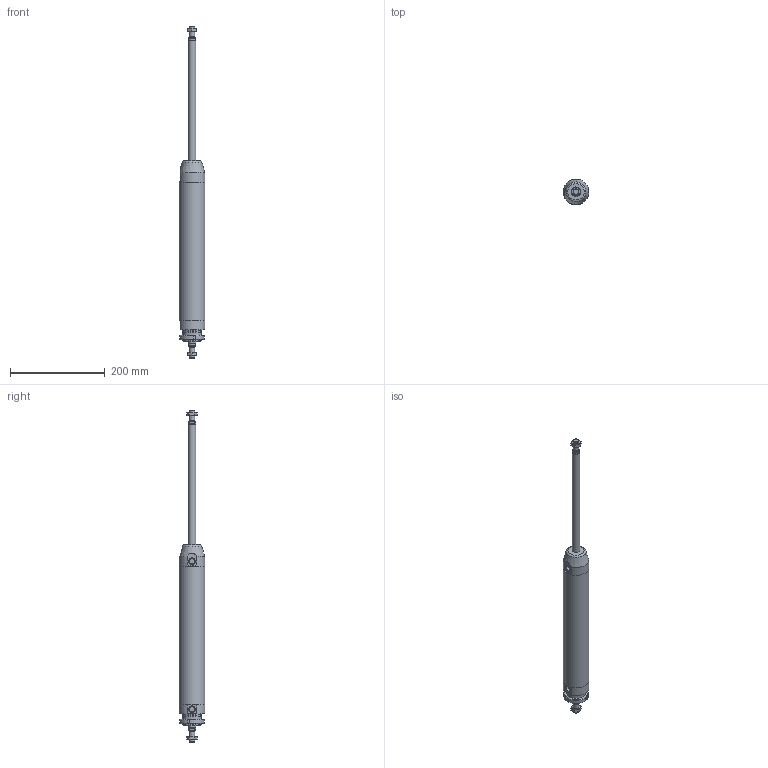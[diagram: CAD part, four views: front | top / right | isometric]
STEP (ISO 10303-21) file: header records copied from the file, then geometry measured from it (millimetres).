
FILE_DESCRIPTION(/* description */ (''),/* implementation_level */ '2;1');
FILE_NAME(/* name */ 'I:\Area Tecnica\Documenti\A-Manieri\_Inventor\12X\12X#T_###_####_#_#\12XCT_050_0250_#_#.stp',/* time_stamp */ '2015-05-13T08:46:23+02:00',/* author */ ('maniean1'),/* organization */ ('Pneumax S.p.A.'),/* preprocessor_version */ 'ST-DEVELOPER v15.2',/* originating_system */ 'Autodesk Inventor 2014',/* authorisation */ '');
FILE_SCHEMA (('AUTOMOTIVE_DESIGN { 1 0 10303 214 3 1 1 }'));
Length unit declared in the file: millimetre
Products named in the file (7): C1250_619-0250; 12X50_604; SP12X50_0250; 12X_50_11; 12X50_613; G12X_050_05; 12XCT_050_0250_#_#
Bounding box: 54 x 54 x 702 mm (x, y, z)
Volume: 465969.5 mm3; surface area: 171215.5 mm2
Topology: 7 solids, 7 shells, 107 faces, 238 edges, 152 vertices
Faces by surface type: plane 54, cylinder 26, cone 26, torus 1
Full cylindrical faces by diameter (mm): 10.2 x2, 11.4 x2, 12 x4, 14 x2, 15.6 x2, 16 x2, 38.2 x1, 40 x3, 50 x2, 54 x3
Entity records: 2546 total; most frequent: CARTESIAN_POINT 474, DIRECTION 433, ORIENTED_EDGE 338, AXIS2_PLACEMENT_3D 187, EDGE_CURVE 169, EDGE_LOOP 150, VERTEX_POINT 129, ADVANCED_FACE 96
